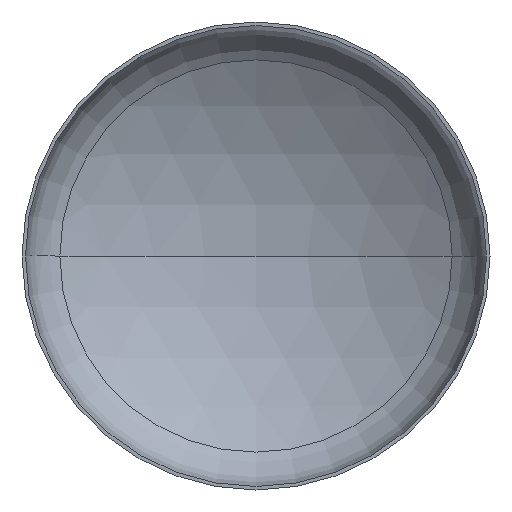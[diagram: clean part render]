
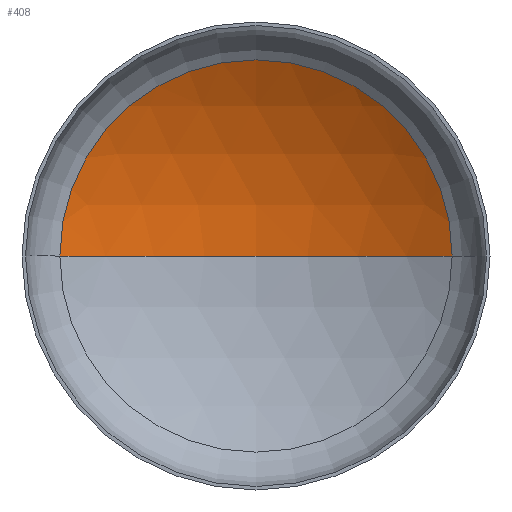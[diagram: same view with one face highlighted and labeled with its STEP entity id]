
A CAD part, front view. The second image highlights one B-rep face of the part: STEP entity #408.
In plain terms, the highlighted spherical face has radius 4000 mm.
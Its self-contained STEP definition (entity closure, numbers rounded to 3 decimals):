
#12 = EDGE_LOOP ( 'NONE', ( #141, #117, #24 ) ) ;
#14 = DIRECTION ( 'NONE',  ( 1., 0., 0. ) ) ;
#23 = AXIS2_PLACEMENT_3D ( 'NONE', #162, #328, #14 ) ;
#24 = ORIENTED_EDGE ( 'NONE', *, *, #353, .T. ) ;
#26 = AXIS2_PLACEMENT_3D ( 'NONE', #396, #257, #259 ) ;
#30 = AXIS2_PLACEMENT_3D ( 'NONE', #178, #181, #36 ) ;
#32 = VERTEX_POINT ( 'NONE', #267 ) ;
#36 = DIRECTION ( 'NONE',  ( 1., 0., 0. ) ) ;
#68 = FACE_OUTER_BOUND ( 'NONE', #12, .T. ) ;
#86 = VERTEX_POINT ( 'NONE', #266 ) ;
#117 = ORIENTED_EDGE ( 'NONE', *, *, #359, .T. ) ;
#119 = VERTEX_POINT ( 'NONE', #339 ) ;
#138 = SPHERICAL_SURFACE ( 'NONE', #220, 4000. ) ;
#141 = ORIENTED_EDGE ( 'NONE', *, *, #360, .F. ) ;
#162 = CARTESIAN_POINT ( 'NONE',  ( 0., -2631.37, 0. ) ) ;
#170 = CARTESIAN_POINT ( 'NONE',  ( 0., -2631.37, 0. ) ) ;
#174 = CIRCLE ( 'NONE', #26, 4000. ) ;
#178 = CARTESIAN_POINT ( 'NONE',  ( 0., 775.899, 0. ) ) ;
#181 = DIRECTION ( 'NONE',  ( 0., -1., 0. ) ) ;
#220 = AXIS2_PLACEMENT_3D ( 'NONE', #170, #285, #283 ) ;
#226 = CIRCLE ( 'NONE', #30, 2095.356 ) ;
#257 = DIRECTION ( 'NONE',  ( 0., 0., -1. ) ) ;
#259 = DIRECTION ( 'NONE',  ( -1., 0., 0. ) ) ;
#266 = CARTESIAN_POINT ( 'NONE',  ( 2095.356, 775.899, 0. ) ) ;
#267 = CARTESIAN_POINT ( 'NONE',  ( 0., 1368.63, 0. ) ) ;
#283 = DIRECTION ( 'NONE',  ( -1., 0., 0. ) ) ;
#285 = DIRECTION ( 'NONE',  ( 0., 0., -1. ) ) ;
#328 = DIRECTION ( 'NONE',  ( 0., 0., 1. ) ) ;
#339 = CARTESIAN_POINT ( 'NONE',  ( -2095.356, 775.899, 0. ) ) ;
#353 = EDGE_CURVE ( 'NONE', #86, #119, #226, .T. ) ;
#359 = EDGE_CURVE ( 'NONE', #32, #86, #174, .T. ) ;
#360 = EDGE_CURVE ( 'NONE', #32, #119, #404, .T. ) ;
#396 = CARTESIAN_POINT ( 'NONE',  ( 0., -2631.37, 0. ) ) ;
#404 = CIRCLE ( 'NONE', #23, 4000. ) ;
#408 = ADVANCED_FACE ( 'NONE', ( #68 ), #138, .F. ) ;
